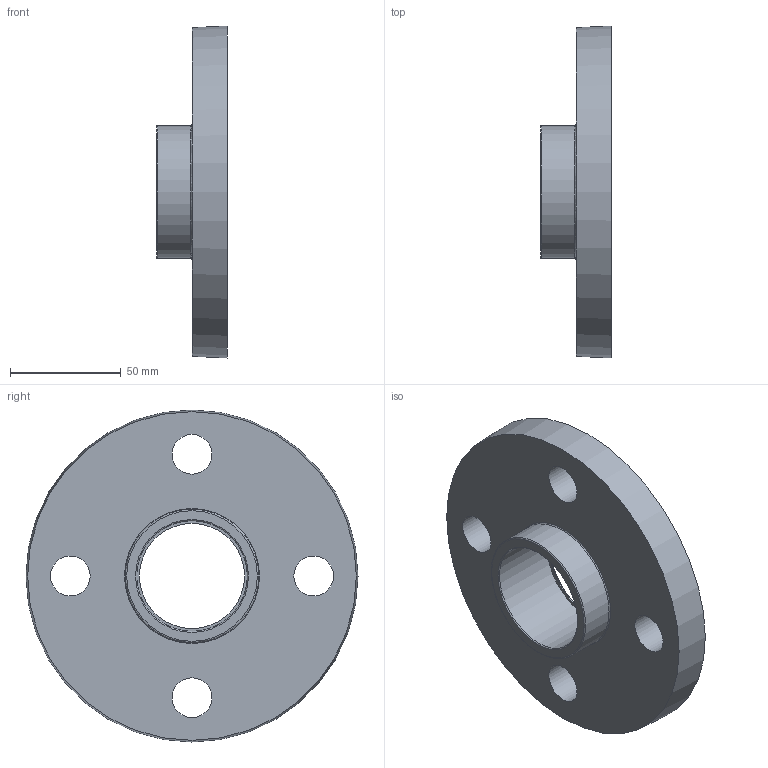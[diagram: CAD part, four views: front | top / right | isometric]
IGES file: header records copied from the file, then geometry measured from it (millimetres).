
Global section: file name: 059200050.ipt; native system: Autodesk Inventor 2015; preprocessor: unknown; author: KIM; date: 20180927.115500; units: millimetre
Bounding box: 32 x 150 x 150 mm (x, y, z)
Volume: 246107.4 mm3; surface area: 48733 mm2
Topology: 1 solids, 1 shells, 28 faces, 62 edges, 44 vertices
Faces by surface type: revolution 13, plane 10, cylinder 4, cone 1
Full cylindrical faces by diameter (mm): 50 x1, 53 x1, 56 x1, 60 x1
